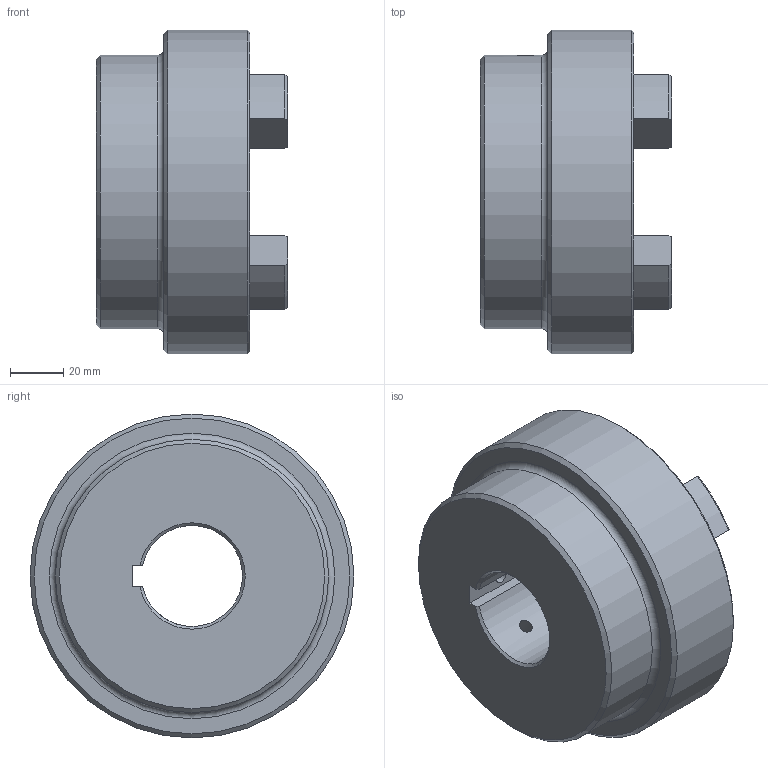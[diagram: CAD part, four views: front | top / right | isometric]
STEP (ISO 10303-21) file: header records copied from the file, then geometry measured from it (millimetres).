
FILE_DESCRIPTION (( 'STEP AP203' ), '1' );
FILE_NAME ('RC5.step', '2024-07-25T13:25:32', ( 'Adlan' ), ( '' ), 'SwSTEP 2.0', 'SolidWorks 2013', '' );
FILE_SCHEMA (( 'CONFIG_CONTROL_DESIGN' ));
Length unit declared in the file: inch
Products named in the file (1): RC5
Bounding box: 72.14 x 122.17 x 122.17 mm (x, y, z)
Volume: 430099.3 mm3; surface area: 59516.8 mm2
Topology: 1 solids, 1 shells, 83 faces, 210 edges, 131 vertices
Faces by surface type: cylinder 33, plane 19, torus 17, cone 14
Full cylindrical faces by diameter (mm): 5.105 x2, 103.124 x1, 122.174 x1
Entity records: 2759 total; most frequent: CARTESIAN_POINT 678, DIRECTION 446, ORIENTED_EDGE 394, EDGE_CURVE 197, AXIS2_PLACEMENT_3D 178, VERTEX_POINT 128, EDGE_LOOP 101, CIRCLE 94
